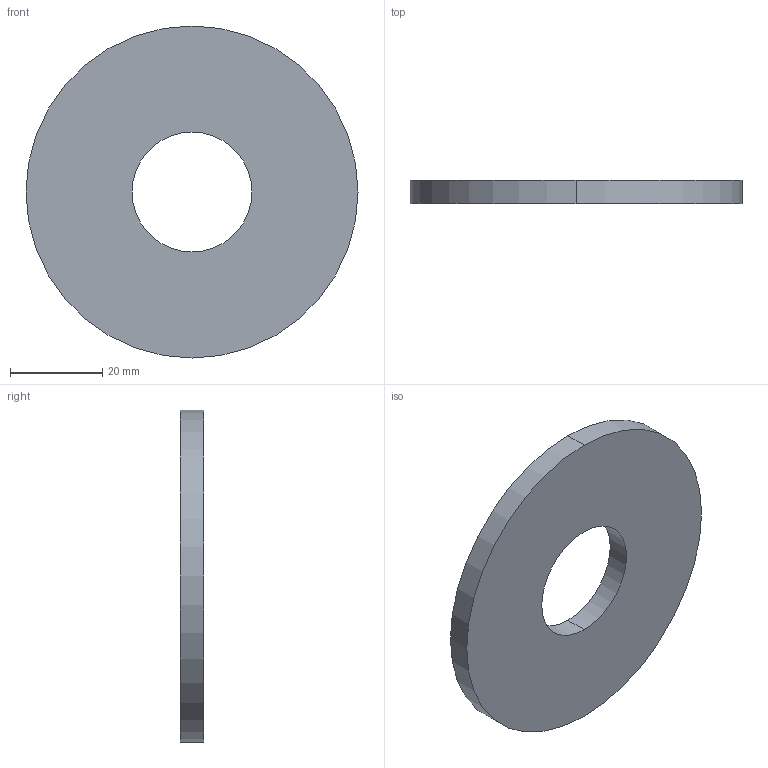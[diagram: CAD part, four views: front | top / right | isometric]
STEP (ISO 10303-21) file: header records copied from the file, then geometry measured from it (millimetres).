
FILE_DESCRIPTION (( 'STEP AP203' ), '1' );
FILE_NAME ('Wiberger-din9021_26.step', '2015-09-02T12:16:18', ( 'Magnus' ), ( 'Microsoft' ), 'SwSTEP 2.0', 'SolidWorks 2015', '' );
FILE_SCHEMA (( 'CONFIG_CONTROL_DESIGN' ));
Length unit declared in the file: millimetre
Products named in the file (1): Wiberger-din9021_26
Bounding box: 72 x 5 x 72 mm (x, y, z)
Volume: 17702.9 mm3; surface area: 8620.5 mm2
Topology: 1 solids, 1 shells, 6 faces, 12 edges, 8 vertices
Faces by surface type: cylinder 4, plane 2
Entity records: 245 total; most frequent: DIRECTION 34, CARTESIAN_POINT 27, ORIENTED_EDGE 24, AXIS2_PLACEMENT_3D 15, EDGE_CURVE 12, CIRCLE 8, EDGE_LOOP 8, PERSON_AND_ORGANIZATION 8
